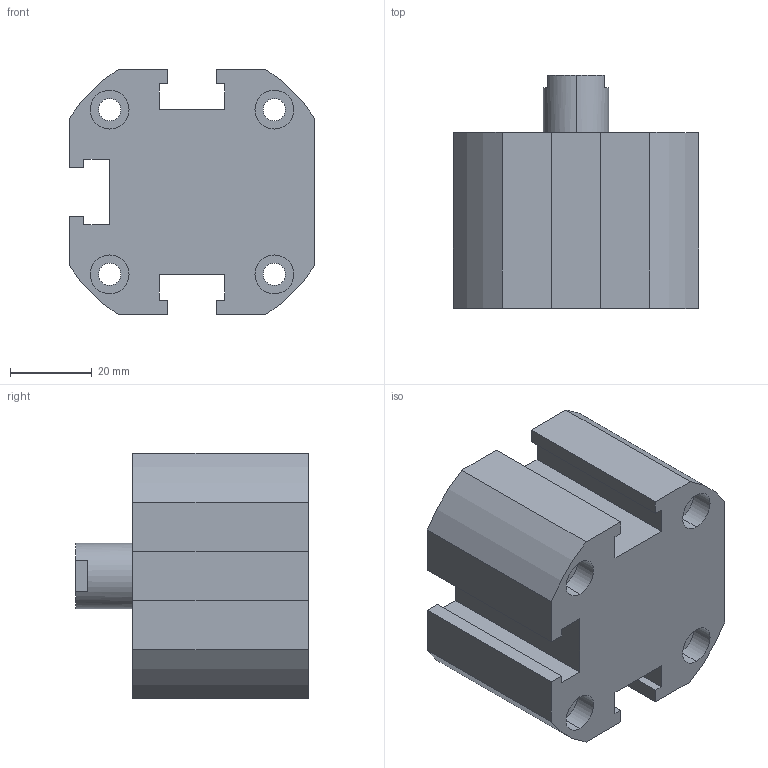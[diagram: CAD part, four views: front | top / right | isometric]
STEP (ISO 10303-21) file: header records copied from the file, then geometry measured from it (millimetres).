
FILE_DESCRIPTION (( 'STEP AP203' ), '1' );
FILE_NAME ('XC#0-40D-10.STEP', '2016-05-23T07:03:10', ( '' ), ( '' ), 'SwSTEP 2.0', 'SolidWorks 2014', '' );
FILE_SCHEMA (( 'CONFIG_CONTROL_DESIGN' ));
Length unit declared in the file: millimetre
Products named in the file (1): XC#0-40D-10
Bounding box: 60 x 57 x 60 mm (x, y, z)
Volume: 120769.7 mm3; surface area: 23556.9 mm2
Topology: 1 solids, 1 shells, 107 faces, 267 edges, 174 vertices
Faces by surface type: cylinder 52, plane 49, cone 6
Entity records: 3290 total; most frequent: DIRECTION 591, CARTESIAN_POINT 545, ORIENTED_EDGE 526, EDGE_CURVE 263, AXIS2_PLACEMENT_3D 220, VERTEX_POINT 174, VECTOR 151, LINE 151
